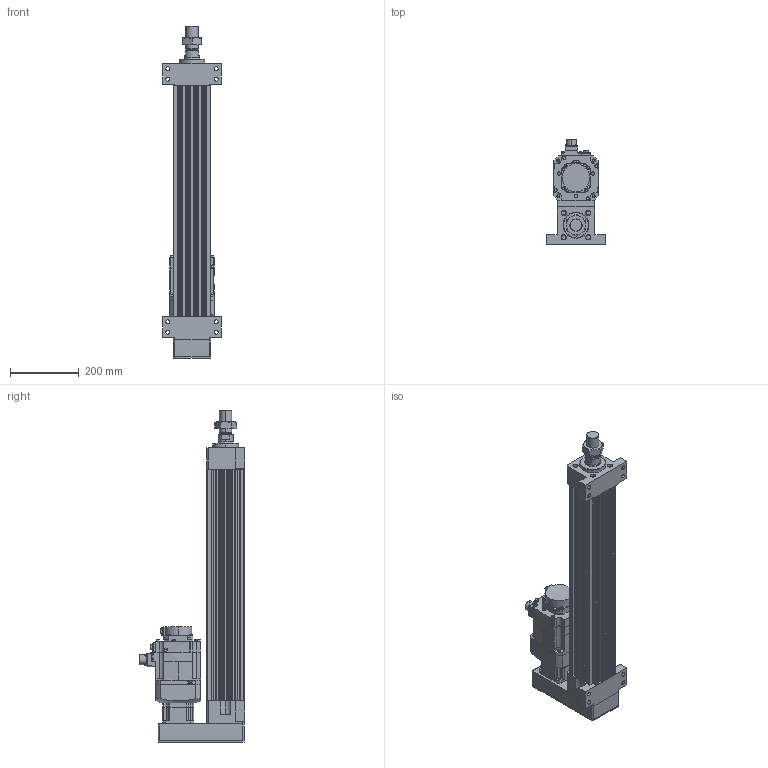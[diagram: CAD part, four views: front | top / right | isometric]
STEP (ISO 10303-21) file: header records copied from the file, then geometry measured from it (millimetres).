
FILE_DESCRIPTION (( 'STEP AP203' ), '1' );
FILE_NAME ('HES110NS(HS)-P500-W010G00-M-FFB.STEP', '2026-06-10T05:53:04', ( 'tms' ), ( '' ), 'SwSTEP 2.0', 'SolidWorks 2013', '' );
FILE_SCHEMA (( 'CONFIG_CONTROL_DESIGN' ));
Length unit declared in the file: millimetre
Products named in the file (8): HES110-FFB-500; HES110-P-G90; AB0901; HG-SR102B; HES110NS(HS)-P500-W010G00-M-FFB; M36X1.5P; HES110-M-ROD-500; AB0902
Assembly tree (7 placements, depth 2):
  HES110NS(HS)-P500-W010G00-M-FFB
    HES110-FFB-500
    HES110-M-ROD-500
    M36X1.5P
    HES110-P-G90
    AB0901
    AB0902
    HG-SR102B
Bounding box: 170 x 304.99 x 963 mm (x, y, z)
Volume: 8997879.8 mm3; surface area: 1191094.9 mm2
Topology: 5 solids, 12 shells, 1157 faces, 2938 edges, 1909 vertices
Faces by surface type: cylinder 550, plane 517, cone 76, bspline 10, torus 4
Entity records: 37070 total; most frequent: CARTESIAN_POINT 7324, DIRECTION 6373, ORIENTED_EDGE 5832, EDGE_CURVE 2926, AXIS2_PLACEMENT_3D 2382, VERTEX_POINT 1909, VECTOR 1609, LINE 1609
